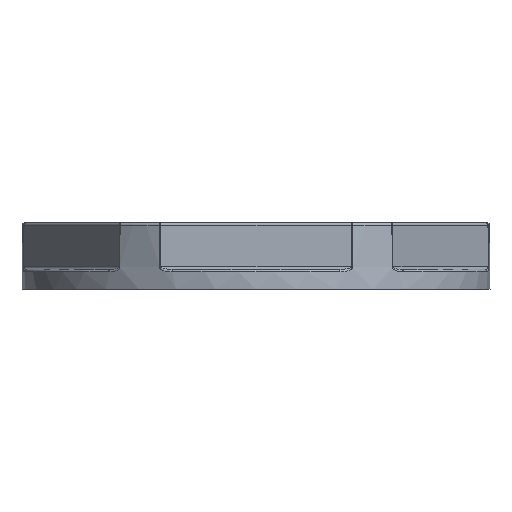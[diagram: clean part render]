
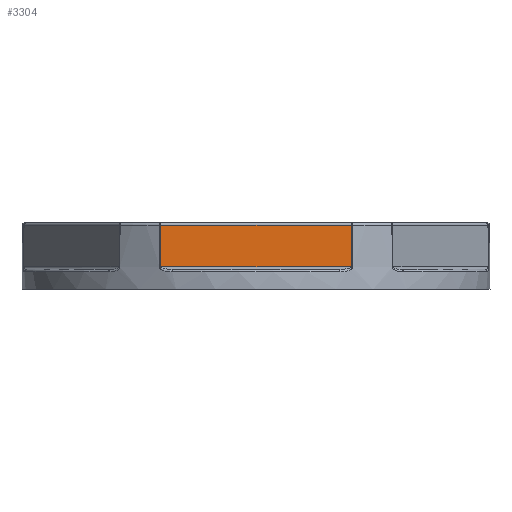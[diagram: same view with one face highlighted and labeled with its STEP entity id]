
A CAD part, front view. The second image highlights one B-rep face of the part: STEP entity #3304.
In plain terms, the highlighted planar face has unit normal (0, -1, 0.009).
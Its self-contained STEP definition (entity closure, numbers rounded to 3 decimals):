
#93 = FACE_OUTER_BOUND ( 'NONE', #5394, .T. ) ;
#169 = CARTESIAN_POINT ( 'NONE',  ( -7.149, -15.981, 2.215 ) ) ;
#366 = CARTESIAN_POINT ( 'NONE',  ( 7.148, -15.976, 2.733 ) ) ;
#585 = DIRECTION ( 'NONE',  ( 0., -1., 0.009 ) ) ;
#640 = PLANE ( 'NONE',  #4729 ) ;
#722 = EDGE_CURVE ( 'NONE', #5021, #3814, #1663, .T. ) ;
#1056 = B_SPLINE_CURVE_WITH_KNOTS ( 'NONE', 3,
 ( #1063, #4967, #2526, #2104, #5589, #169, #5556 ),
 .UNSPECIFIED., .F., .F.,
 ( 4, 3, 4 ),
 ( 0., 0.002, 0.003 ),
 .UNSPECIFIED. ) ;
#1063 = CARTESIAN_POINT ( 'NONE',  ( -7.144, -15.958, 4.802 ) ) ;
#1097 = VECTOR ( 'NONE', #3680, 1000. ) ;
#1122 = VECTOR ( 'NONE', #1751, 1000. ) ;
#1195 = CARTESIAN_POINT ( 'NONE',  ( 7.146, -15.967, 3.767 ) ) ;
#1563 = EDGE_CURVE ( 'NONE', #3650, #4361, #3705, .T. ) ;
#1663 = LINE ( 'NONE', #5205, #1122 ) ;
#1751 = DIRECTION ( 'NONE',  ( -1., 0., 0. ) ) ;
#1837 = DIRECTION ( 'NONE',  ( 0., -0.009, -1. ) ) ;
#1997 = CARTESIAN_POINT ( 'NONE',  ( 7.15, -15.985, 1.698 ) ) ;
#2104 = CARTESIAN_POINT ( 'NONE',  ( -7.147, -15.972, 3.25 ) ) ;
#2136 = ORIENTED_EDGE ( 'NONE', *, *, #1563, .T. ) ;
#2526 = CARTESIAN_POINT ( 'NONE',  ( -7.146, -15.967, 3.767 ) ) ;
#2856 = CARTESIAN_POINT ( 'NONE',  ( -7.144, -15.958, 4.802 ) ) ;
#2955 = CARTESIAN_POINT ( 'NONE',  ( -7.15, -15.985, 1.698 ) ) ;
#2983 = CARTESIAN_POINT ( 'NONE',  ( 7.15, -15.985, 1.698 ) ) ;
#3304 = ADVANCED_FACE ( 'NONE', ( #93 ), #640, .T. ) ;
#3650 = VERTEX_POINT ( 'NONE', #2955 ) ;
#3676 = EDGE_CURVE ( 'NONE', #3814, #3650, #1056, .T. ) ;
#3680 = DIRECTION ( 'NONE',  ( 1., 0., 0. ) ) ;
#3704 = EDGE_CURVE ( 'NONE', #4361, #5021, #4650, .T. ) ;
#3705 = LINE ( 'NONE', #5448, #1097 ) ;
#3814 = VERTEX_POINT ( 'NONE', #2856 ) ;
#3843 = CARTESIAN_POINT ( 'NONE',  ( 7.145, -15.963, 4.284 ) ) ;
#4269 = CARTESIAN_POINT ( 'NONE',  ( 7.149, -15.981, 2.215 ) ) ;
#4275 = ORIENTED_EDGE ( 'NONE', *, *, #3704, .T. ) ;
#4361 = VERTEX_POINT ( 'NONE', #1997 ) ;
#4537 = CARTESIAN_POINT ( 'NONE',  ( 7.144, -15.958, 4.802 ) ) ;
#4650 = B_SPLINE_CURVE_WITH_KNOTS ( 'NONE', 3,
 ( #2983, #4269, #366, #4667, #1195, #3843, #4537 ),
 .UNSPECIFIED., .F., .F.,
 ( 4, 3, 4 ),
 ( 0., 0.002, 0.003 ),
 .UNSPECIFIED. ) ;
#4667 = CARTESIAN_POINT ( 'NONE',  ( 7.147, -15.972, 3.25 ) ) ;
#4729 = AXIS2_PLACEMENT_3D ( 'NONE', #4917, #585, #1837 ) ;
#4752 = ORIENTED_EDGE ( 'NONE', *, *, #722, .T. ) ;
#4917 = CARTESIAN_POINT ( 'NONE',  ( -9.238, -16., 0. ) ) ;
#4967 = CARTESIAN_POINT ( 'NONE',  ( -7.145, -15.963, 4.284 ) ) ;
#5021 = VERTEX_POINT ( 'NONE', #5523 ) ;
#5122 = ORIENTED_EDGE ( 'NONE', *, *, #3676, .T. ) ;
#5205 = CARTESIAN_POINT ( 'NONE',  ( -7.186, -15.958, 4.802 ) ) ;
#5394 = EDGE_LOOP ( 'NONE', ( #4752, #5122, #2136, #4275 ) ) ;
#5448 = CARTESIAN_POINT ( 'NONE',  ( 7.193, -15.985, 1.698 ) ) ;
#5523 = CARTESIAN_POINT ( 'NONE',  ( 7.144, -15.958, 4.802 ) ) ;
#5556 = CARTESIAN_POINT ( 'NONE',  ( -7.15, -15.985, 1.698 ) ) ;
#5589 = CARTESIAN_POINT ( 'NONE',  ( -7.148, -15.976, 2.733 ) ) ;
